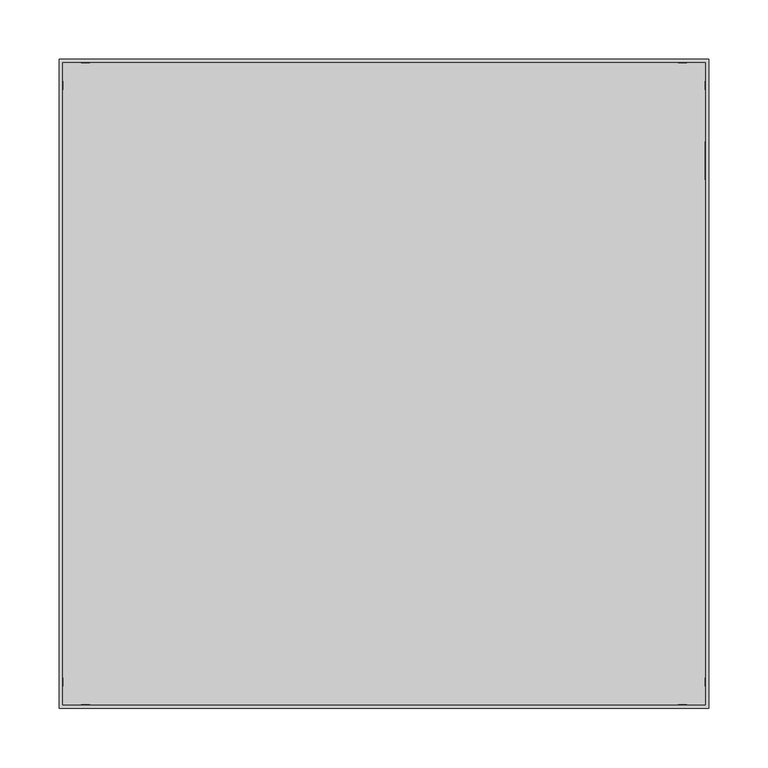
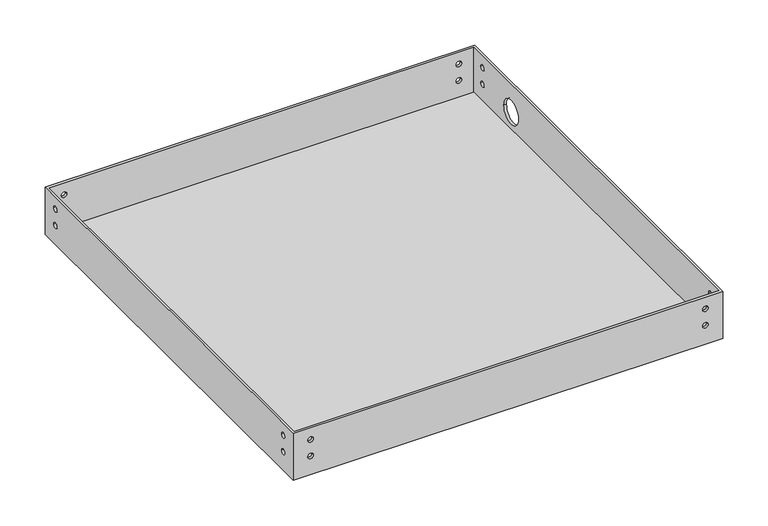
"""IFC4 building model written with IfcOpenShell, lengths in millimetres: proxy geometry, 40 SWHP : #40-SWHP."""

from ifc_helpers import new_model, si_unit, frame, origin, place, context, project, spatial, polyline, circle_curve, source, transform, mapped, element, save
from ifc_brep_helpers import plane_surface, revolved_surface, advanced_brep


def generic_models_013b3a9d(model_context):
    return source(origin(), model_context, "Body", "AdvancedBrep", [
        advanced_brep(
        [(271.065625, -271.065625, 3.175), (271.065625, 271.065625, 3.175), (-271.065625, 271.065625, 3.175), (-271.065625, -271.065625, 3.175), (274.240625, -274.240625, 63.5), (274.240625, 274.240625, 63.5), (-274.240625, 274.240625, 63.5), (-274.240625, -274.240625, 63.5), (271.065625, 271.065625, 63.5), (271.065625, -271.065625, 63.5), (-271.065625, -271.065625, 63.5), (-271.065625, 271.065625, 63.5), (274.240625, -274.240625, 0.0), (-274.240625, -274.240625, 0.0), (-274.240625, 274.240625, 0.0), (274.240625, 274.240625, 0.0), (271.065625, 172.640625, 25.9953125), (271.065625, 204.390625, 25.9953125), (271.065625, -255.584325, 47.625), (271.065625, -248.446925, 47.625), (271.065625, -255.584325, 25.4), (271.065625, -248.446925, 25.4), (271.065625, 248.446925, 47.625), (271.065625, 255.584325, 47.625), (271.065625, 248.446925, 25.4), (271.065625, 255.584325, 25.4), (-255.584325, -271.065625, 47.625), (-248.446925, -271.065625, 47.625), (-255.584325, -271.065625, 25.4), (-248.446925, -271.065625, 25.4), (248.446925, -271.065625, 47.625), (255.584325, -271.065625, 47.625), (248.446925, -271.065625, 25.4), (255.584325, -271.065625, 25.4), (-271.065625, 255.584325, 47.625), (-271.065625, 248.446925, 47.625), (-271.065625, 255.584325, 25.4), (-271.065625, 248.446925, 25.4), (-271.065625, -248.446925, 47.625), (-271.065625, -255.584325, 47.625), (-271.065625, -248.446925, 25.4), (-271.065625, -255.584325, 25.4), (-248.446925, 271.065625, 47.625), (-255.584325, 271.065625, 47.625), (-248.446925, 271.065625, 25.4), (-255.584325, 271.065625, 25.4), (255.584325, 271.065625, 25.4), (248.446925, 271.065625, 25.4), (255.584325, 271.065625, 47.625), (248.446925, 271.065625, 47.625), (274.240625, 204.390625, 25.9953125), (274.240625, 172.640625, 25.9953125), (274.240625, -248.446925, 47.625), (274.240625, -255.584325, 47.625), (274.240625, -248.446925, 25.4), (274.240625, -255.584325, 25.4), (274.240625, 255.584325, 47.625), (274.240625, 248.446925, 47.625), (274.240625, 255.584325, 25.4), (274.240625, 248.446925, 25.4), (-255.584325, 274.240625, 47.625), (-248.446925, 274.240625, 47.625), (-255.584325, 274.240625, 25.4), (-248.446925, 274.240625, 25.4), (248.446925, 274.240625, 25.4), (255.584325, 274.240625, 25.4), (248.446925, 274.240625, 47.625), (255.584325, 274.240625, 47.625), (-274.240625, 248.446925, 47.625), (-274.240625, 255.584325, 47.625), (-274.240625, 248.446925, 25.4), (-274.240625, 255.584325, 25.4), (-274.240625, -255.584325, 47.625), (-274.240625, -248.446925, 47.625), (-274.240625, -255.584325, 25.4), (-274.240625, -248.446925, 25.4), (-248.446925, -274.240625, 47.625), (-255.584325, -274.240625, 47.625), (-248.446925, -274.240625, 25.4), (-255.584325, -274.240625, 25.4), (255.584325, -274.240625, 47.625), (248.446925, -274.240625, 47.625), (255.584325, -274.240625, 25.4), (248.446925, -274.240625, 25.4)],
        [
            (0, 1),
            (1, 2),
            (2, 3),
            (3, 0),
            (4, 5),
            (5, 6),
            (6, 7),
            (7, 4),
            (8, 9),
            (9, 10),
            (10, 11),
            (11, 8),
            (12, 13),
            (13, 14),
            (14, 15),
            (15, 12),
            (8, 1),
            (0, 9),
            (16, 17, circle_curve(frame((271.065625, 188.515625, 25.9953125), z_axis=(1.0, 0.0, 0.0), x_axis=(0.0, 1.0, 0.0)), 15.875)),
            (17, 16, circle_curve(frame((271.065625, 188.515625, 25.9953125), z_axis=(1.0, 0.0, 0.0), x_axis=(0.0, 1.0, 0.0)), 15.875)),
            (18, 19, circle_curve(frame((271.065625, -252.015625, 47.625), z_axis=(1.0, 0.0, 0.0), x_axis=(0.0, -1.0, 0.0)), 3.5687)),
            (19, 18, circle_curve(frame((271.065625, -252.015625, 47.625), z_axis=(1.0, 0.0, 0.0), x_axis=(0.0, -1.0, 0.0)), 3.5687)),
            (20, 21, circle_curve(frame((271.065625, -252.015625, 25.4), z_axis=(1.0, 0.0, 0.0), x_axis=(0.0, -1.0, 0.0)), 3.5687)),
            (21, 20, circle_curve(frame((271.065625, -252.015625, 25.4), z_axis=(1.0, 0.0, 0.0), x_axis=(0.0, -1.0, 0.0)), 3.5687)),
            (22, 23, circle_curve(frame((271.065625, 252.015625, 47.625), z_axis=(1.0, 0.0, 0.0), x_axis=(0.0, -1.0, 0.0)), 3.5687)),
            (23, 22, circle_curve(frame((271.065625, 252.015625, 47.625), z_axis=(1.0, 0.0, 0.0), x_axis=(0.0, -1.0, 0.0)), 3.5687)),
            (24, 25, circle_curve(frame((271.065625, 252.015625, 25.4), z_axis=(1.0, 0.0, 0.0), x_axis=(0.0, -1.0, 0.0)), 3.5687)),
            (25, 24, circle_curve(frame((271.065625, 252.015625, 25.4), z_axis=(1.0, 0.0, 0.0), x_axis=(0.0, -1.0, 0.0)), 3.5687)),
            (3, 10),
            (26, 27, circle_curve(frame((-252.015625, -271.065625, 47.625), z_axis=(0.0, -1.0, 0.0), x_axis=(-1.0, 0.0, 0.0)), 3.5687)),
            (27, 26, circle_curve(frame((-252.015625, -271.065625, 47.625), z_axis=(0.0, -1.0, 0.0), x_axis=(-1.0, 0.0, 0.0)), 3.5687)),
            (28, 29, circle_curve(frame((-252.015625, -271.065625, 25.4), z_axis=(0.0, -1.0, 0.0), x_axis=(-1.0, 0.0, 0.0)), 3.5687)),
            (29, 28, circle_curve(frame((-252.015625, -271.065625, 25.4), z_axis=(0.0, -1.0, 0.0), x_axis=(-1.0, 0.0, 0.0)), 3.5687)),
            (30, 31, circle_curve(frame((252.015625, -271.065625, 47.625), z_axis=(0.0, -1.0, 0.0), x_axis=(-1.0, 0.0, 0.0)), 3.5687)),
            (31, 30, circle_curve(frame((252.015625, -271.065625, 47.625), z_axis=(0.0, -1.0, 0.0), x_axis=(-1.0, 0.0, 0.0)), 3.5687)),
            (32, 33, circle_curve(frame((252.015625, -271.065625, 25.4), z_axis=(0.0, -1.0, 0.0), x_axis=(-1.0, 0.0, 0.0)), 3.5687)),
            (33, 32, circle_curve(frame((252.015625, -271.065625, 25.4), z_axis=(0.0, -1.0, 0.0), x_axis=(-1.0, 0.0, 0.0)), 3.5687)),
            (2, 11),
            (34, 35, circle_curve(frame((-271.065625, 252.015625, 47.625), z_axis=(-1.0, 0.0, 0.0), x_axis=(0.0, -1.0, 0.0)), 3.5687)),
            (35, 34, circle_curve(frame((-271.065625, 252.015625, 47.625), z_axis=(-1.0, 0.0, 0.0), x_axis=(0.0, -1.0, 0.0)), 3.5687)),
            (36, 37, circle_curve(frame((-271.065625, 252.015625, 25.4), z_axis=(-1.0, 0.0, 0.0), x_axis=(0.0, -1.0, 0.0)), 3.5687)),
            (37, 36, circle_curve(frame((-271.065625, 252.015625, 25.4), z_axis=(-1.0, 0.0, 0.0), x_axis=(0.0, -1.0, 0.0)), 3.5687)),
            (38, 39, circle_curve(frame((-271.065625, -252.015625, 47.625), z_axis=(-1.0, 0.0, 0.0), x_axis=(0.0, -1.0, 0.0)), 3.5687)),
            (39, 38, circle_curve(frame((-271.065625, -252.015625, 47.625), z_axis=(-1.0, 0.0, 0.0), x_axis=(0.0, -1.0, 0.0)), 3.5687)),
            (40, 41, circle_curve(frame((-271.065625, -252.015625, 25.4), z_axis=(-1.0, 0.0, 0.0), x_axis=(0.0, -1.0, 0.0)), 3.5687)),
            (41, 40, circle_curve(frame((-271.065625, -252.015625, 25.4), z_axis=(-1.0, 0.0, 0.0), x_axis=(0.0, -1.0, 0.0)), 3.5687)),
            (42, 43, circle_curve(frame((-252.015625, 271.065625, 47.625), z_axis=(0.0, 1.0, 0.0), x_axis=(-1.0, 0.0, 0.0)), 3.5687)),
            (43, 42, circle_curve(frame((-252.015625, 271.065625, 47.625), z_axis=(0.0, 1.0, 0.0), x_axis=(-1.0, 0.0, 0.0)), 3.5687)),
            (44, 45, circle_curve(frame((-252.015625, 271.065625, 25.4), z_axis=(0.0, 1.0, 0.0), x_axis=(-1.0, 0.0, 0.0)), 3.5687)),
            (45, 44, circle_curve(frame((-252.015625, 271.065625, 25.4), z_axis=(0.0, 1.0, 0.0), x_axis=(-1.0, 0.0, 0.0)), 3.5687)),
            (46, 47, circle_curve(frame((252.015625, 271.065625, 25.4), z_axis=(0.0, 1.0, 0.0), x_axis=(-1.0, 0.0, 0.0)), 3.5687)),
            (47, 46, circle_curve(frame((252.015625, 271.065625, 25.4), z_axis=(0.0, 1.0, 0.0), x_axis=(-1.0, 0.0, 0.0)), 3.5687)),
            (48, 49, circle_curve(frame((252.015625, 271.065625, 47.625), z_axis=(0.0, 1.0, 0.0), x_axis=(-1.0, 0.0, 0.0)), 3.5687)),
            (49, 48, circle_curve(frame((252.015625, 271.065625, 47.625), z_axis=(0.0, 1.0, 0.0), x_axis=(-1.0, 0.0, 0.0)), 3.5687)),
            (4, 12),
            (15, 5),
            (50, 51, circle_curve(frame((274.240625, 188.515625, 25.9953125), z_axis=(-1.0, 0.0, 0.0), x_axis=(0.0, 1.0, 0.0)), 15.875)),
            (51, 50, circle_curve(frame((274.240625, 188.515625, 25.9953125), z_axis=(-1.0, 0.0, 0.0), x_axis=(0.0, 1.0, 0.0)), 15.875)),
            (52, 53, circle_curve(frame((274.240625, -252.015625, 47.625), z_axis=(-1.0, 0.0, 0.0), x_axis=(0.0, -1.0, 0.0)), 3.5687)),
            (53, 52, circle_curve(frame((274.240625, -252.015625, 47.625), z_axis=(-1.0, 0.0, 0.0), x_axis=(0.0, -1.0, 0.0)), 3.5687)),
            (54, 55, circle_curve(frame((274.240625, -252.015625, 25.4), z_axis=(-1.0, 0.0, 0.0), x_axis=(0.0, -1.0, 0.0)), 3.5687)),
            (55, 54, circle_curve(frame((274.240625, -252.015625, 25.4), z_axis=(-1.0, 0.0, 0.0), x_axis=(0.0, -1.0, 0.0)), 3.5687)),
            (56, 57, circle_curve(frame((274.240625, 252.015625, 47.625), z_axis=(-1.0, 0.0, 0.0), x_axis=(0.0, -1.0, 0.0)), 3.5687)),
            (57, 56, circle_curve(frame((274.240625, 252.015625, 47.625), z_axis=(-1.0, 0.0, 0.0), x_axis=(0.0, -1.0, 0.0)), 3.5687)),
            (58, 59, circle_curve(frame((274.240625, 252.015625, 25.4), z_axis=(-1.0, 0.0, 0.0), x_axis=(0.0, -1.0, 0.0)), 3.5687)),
            (59, 58, circle_curve(frame((274.240625, 252.015625, 25.4), z_axis=(-1.0, 0.0, 0.0), x_axis=(0.0, -1.0, 0.0)), 3.5687)),
            (14, 6),
            (60, 61, circle_curve(frame((-252.015625, 274.240625, 47.625), z_axis=(0.0, -1.0, 0.0), x_axis=(-1.0, 0.0, 0.0)), 3.5687)),
            (61, 60, circle_curve(frame((-252.015625, 274.240625, 47.625), z_axis=(0.0, -1.0, 0.0), x_axis=(-1.0, 0.0, 0.0)), 3.5687)),
            (62, 63, circle_curve(frame((-252.015625, 274.240625, 25.4), z_axis=(0.0, -1.0, 0.0), x_axis=(-1.0, 0.0, 0.0)), 3.5687)),
            (63, 62, circle_curve(frame((-252.015625, 274.240625, 25.4), z_axis=(0.0, -1.0, 0.0), x_axis=(-1.0, 0.0, 0.0)), 3.5687)),
            (64, 65, circle_curve(frame((252.015625, 274.240625, 25.4), z_axis=(0.0, -1.0, 0.0), x_axis=(-1.0, 0.0, 0.0)), 3.5687)),
            (65, 64, circle_curve(frame((252.015625, 274.240625, 25.4), z_axis=(0.0, -1.0, 0.0), x_axis=(-1.0, 0.0, 0.0)), 3.5687)),
            (66, 67, circle_curve(frame((252.015625, 274.240625, 47.625), z_axis=(0.0, -1.0, 0.0), x_axis=(-1.0, 0.0, 0.0)), 3.5687)),
            (67, 66, circle_curve(frame((252.015625, 274.240625, 47.625), z_axis=(0.0, -1.0, 0.0), x_axis=(-1.0, 0.0, 0.0)), 3.5687)),
            (13, 7),
            (68, 69, circle_curve(frame((-274.240625, 252.015625, 47.625), z_axis=(1.0, 0.0, 0.0), x_axis=(0.0, -1.0, 0.0)), 3.5687)),
            (69, 68, circle_curve(frame((-274.240625, 252.015625, 47.625), z_axis=(1.0, 0.0, 0.0), x_axis=(0.0, -1.0, 0.0)), 3.5687)),
            (70, 71, circle_curve(frame((-274.240625, 252.015625, 25.4), z_axis=(1.0, 0.0, 0.0), x_axis=(0.0, -1.0, 0.0)), 3.5687)),
            (71, 70, circle_curve(frame((-274.240625, 252.015625, 25.4), z_axis=(1.0, 0.0, 0.0), x_axis=(0.0, -1.0, 0.0)), 3.5687)),
            (72, 73, circle_curve(frame((-274.240625, -252.015625, 47.625), z_axis=(1.0, 0.0, 0.0), x_axis=(0.0, -1.0, 0.0)), 3.5687)),
            (73, 72, circle_curve(frame((-274.240625, -252.015625, 47.625), z_axis=(1.0, 0.0, 0.0), x_axis=(0.0, -1.0, 0.0)), 3.5687)),
            (74, 75, circle_curve(frame((-274.240625, -252.015625, 25.4), z_axis=(1.0, 0.0, 0.0), x_axis=(0.0, -1.0, 0.0)), 3.5687)),
            (75, 74, circle_curve(frame((-274.240625, -252.015625, 25.4), z_axis=(1.0, 0.0, 0.0), x_axis=(0.0, -1.0, 0.0)), 3.5687)),
            (76, 77, circle_curve(frame((-252.015625, -274.240625, 47.625), z_axis=(0.0, 1.0, 0.0), x_axis=(-1.0, 0.0, 0.0)), 3.5687)),
            (77, 76, circle_curve(frame((-252.015625, -274.240625, 47.625), z_axis=(0.0, 1.0, 0.0), x_axis=(-1.0, 0.0, 0.0)), 3.5687)),
            (78, 79, circle_curve(frame((-252.015625, -274.240625, 25.4), z_axis=(0.0, 1.0, 0.0), x_axis=(-1.0, 0.0, 0.0)), 3.5687)),
            (79, 78, circle_curve(frame((-252.015625, -274.240625, 25.4), z_axis=(0.0, 1.0, 0.0), x_axis=(-1.0, 0.0, 0.0)), 3.5687)),
            (80, 81, circle_curve(frame((252.015625, -274.240625, 47.625), z_axis=(0.0, 1.0, 0.0), x_axis=(-1.0, 0.0, 0.0)), 3.5687)),
            (81, 80, circle_curve(frame((252.015625, -274.240625, 47.625), z_axis=(0.0, 1.0, 0.0), x_axis=(-1.0, 0.0, 0.0)), 3.5687)),
            (82, 83, circle_curve(frame((252.015625, -274.240625, 25.4), z_axis=(0.0, 1.0, 0.0), x_axis=(-1.0, 0.0, 0.0)), 3.5687)),
            (83, 82, circle_curve(frame((252.015625, -274.240625, 25.4), z_axis=(0.0, 1.0, 0.0), x_axis=(-1.0, 0.0, 0.0)), 3.5687)),
            (16, 51),
            (50, 17),
            (34, 69),
            (68, 35),
            (36, 71),
            (70, 37),
            (38, 73),
            (72, 39),
            (40, 75),
            (74, 41),
            (76, 27),
            (26, 77),
            (78, 29),
            (28, 79),
            (80, 31),
            (30, 81),
            (82, 33),
            (32, 83),
            (52, 19),
            (18, 53),
            (54, 21),
            (20, 55),
            (56, 23),
            (22, 57),
            (58, 25),
            (24, 59),
            (42, 61),
            (60, 43),
            (44, 63),
            (62, 45),
            (46, 65),
            (64, 47),
            (48, 67),
            (66, 49),
        ],
        [
            plane_surface(frame((-271.065625, 271.065625, 3.175), z_axis=(0.0, 0.0, 1.0), x_axis=(-1.0, 0.0, 0.0))),
            plane_surface(frame((271.065625, 271.065625, 63.5), z_axis=(0.0, 0.0, 1.0), x_axis=(0.0, -1.0, 0.0))),
            plane_surface(frame((271.065625, 271.065625, 0.0), z_axis=(0.0, 0.0, -1.0), x_axis=(0.0, 1.0, 0.0))),
            plane_surface(frame((271.065625, 271.065625, 63.5), z_axis=(-1.0, 0.0, 0.0), x_axis=(0.0, 0.0, -1.0))),
            plane_surface(frame((271.065625, -271.065625, 63.5), z_axis=(0.0, 1.0, 0.0), x_axis=(0.0, 0.0, -1.0))),
            plane_surface(frame((-271.065625, -271.065625, 63.5), z_axis=(1.0, 0.0, 0.0), x_axis=(0.0, 0.0, -1.0))),
            plane_surface(frame((-271.065625, 271.065625, 63.5), z_axis=(0.0, -1.0, 0.0), x_axis=(0.0, 0.0, -1.0))),
            plane_surface(frame((274.240625, -274.240625, 63.5), z_axis=(1.0, 0.0, 0.0), x_axis=(0.0, 0.0, -1.0))),
            plane_surface(frame((274.240625, 274.240625, 63.5), z_axis=(0.0, 1.0, 0.0), x_axis=(0.0, 0.0, -1.0))),
            plane_surface(frame((-274.240625, 274.240625, 63.5), z_axis=(-1.0, 0.0, 0.0), x_axis=(0.0, 0.0, -1.0))),
            plane_surface(frame((-274.240625, -274.240625, 63.5), z_axis=(0.0, -1.0, 0.0), x_axis=(0.0, 0.0, -1.0))),
            revolved_surface(polyline([(274.240625, 204.390625, 25.9953125), (271.065625, 204.390625, 25.9953125)]), (271.065625, 188.515625, 25.9953125), (1.0, 0.0, 0.0)),
            revolved_surface(polyline([(-274.240625, 248.446925, 47.625), (-271.065625, 248.446925, 47.625)]), (-271.065625, 252.015625, 47.625), (-1.0, 0.0, 0.0)),
            revolved_surface(polyline([(-274.240625, 248.446925, 25.4), (-271.065625, 248.446925, 25.4)]), (-278.914225, 252.015625, 25.4), (-1.0, 0.0, 0.0)),
            revolved_surface(polyline([(-274.240625, -255.584325, 47.625), (-271.065625, -255.584325, 47.625)]), (-271.065625, -252.015625, 47.625), (-1.0, 0.0, 0.0)),
            revolved_surface(polyline([(-274.240625, -255.584325, 25.4), (-271.065625, -255.584325, 25.4)]), (-278.914225, -252.015625, 25.4), (-1.0, 0.0, 0.0)),
            revolved_surface(polyline([(-255.584325, -271.065625, 47.625), (-255.584325, -274.240625, 47.625)]), (-252.015625, -278.914225, 47.625), (0.0, 1.0, 0.0)),
            revolved_surface(polyline([(-255.584325, -271.065625, 25.4), (-255.584325, -274.240625, 25.4)]), (-252.015625, -278.914225, 25.4), (0.0, 1.0, 0.0)),
            revolved_surface(polyline([(248.446925, -271.065625, 47.625), (248.446925, -274.240625, 47.625)]), (252.015625, -278.914225, 47.625), (0.0, 1.0, 0.0)),
            revolved_surface(polyline([(248.446925, -271.065625, 25.4), (248.446925, -274.240625, 25.4)]), (252.015625, -278.914225, 25.4), (0.0, 1.0, 0.0)),
            revolved_surface(polyline([(271.065625, -255.584325, 47.625), (274.240625, -255.584325, 47.625)]), (278.914225, -252.015625, 47.625), (-1.0, 0.0, 0.0)),
            revolved_surface(polyline([(271.065625, -255.584325, 25.4), (274.240625, -255.584325, 25.4)]), (278.914225, -252.015625, 25.4), (-1.0, 0.0, 0.0)),
            revolved_surface(polyline([(271.065625, 248.446925, 47.625), (274.240625, 248.446925, 47.625)]), (278.914225, 252.015625, 47.625), (-1.0, 0.0, 0.0)),
            revolved_surface(polyline([(271.065625, 248.446925, 25.4), (274.240625, 248.446925, 25.4)]), (278.914225, 252.015625, 25.4), (-1.0, 0.0, 0.0)),
            revolved_surface(polyline([(-255.584325, 274.240625, 47.625), (-255.584325, 271.065625, 47.625)]), (-252.015625, 271.065625, 47.625), (0.0, 1.0, 0.0)),
            revolved_surface(polyline([(-255.584325, 274.240625, 25.4), (-255.584325, 271.065625, 25.4)]), (-252.015625, 278.914225, 25.4), (0.0, 1.0, 0.0)),
            revolved_surface(polyline([(248.446925, 274.240625, 25.4), (248.446925, 271.065625, 25.4)]), (252.015625, 271.065625, 25.4), (0.0, 1.0, 0.0)),
            revolved_surface(polyline([(248.446925, 274.240625, 47.625), (248.446925, 271.065625, 47.625)]), (252.015625, 278.914225, 47.625), (0.0, 1.0, 0.0)),
        ],
        [
            (0, [[1, 2, 3, 4]]),
            (1, [[5, 6, 7, 8], [9, 10, 11, 12]]),
            (2, [[13, 14, 15, 16]]),
            (3, [[-9, 17, -1, 18], [19, 20], [21, 22], [23, 24], [25, 26], [27, 28]]),
            (4, [[-10, -18, -4, 29], [30, 31], [32, 33], [34, 35], [36, 37]]),
            (5, [[-11, -29, -3, 38], [39, 40], [41, 42], [43, 44], [45, 46]]),
            (6, [[-12, -38, -2, -17], [47, 48], [49, 50], [51, 52], [53, 54]]),
            (7, [[-5, 55, -16, 56], [57, 58], [59, 60], [61, 62], [63, 64], [65, 66]]),
            (8, [[-6, -56, -15, 67], [68, 69], [70, 71], [72, 73], [74, 75]]),
            (9, [[-7, -67, -14, 76], [77, 78], [79, 80], [81, 82], [83, 84]]),
            (10, [[-8, -76, -13, -55], [85, 86], [87, 88], [89, 90], [91, 92]]),
            (11, [[93, -57, 94, -19]]),
            (11, [[-93, -20, -94, -58]]),
            (12, [[95, -77, 96, -39]]),
            (12, [[-95, -40, -96, -78]]),
            (13, [[97, -79, 98, -41]]),
            (13, [[-97, -42, -98, -80]]),
            (14, [[99, -81, 100, -43]]),
            (14, [[-99, -44, -100, -82]]),
            (15, [[101, -83, 102, -45]]),
            (15, [[-101, -46, -102, -84]]),
            (16, [[103, -30, 104, -85]]),
            (16, [[-103, -86, -104, -31]]),
            (17, [[105, -32, 106, -87]]),
            (17, [[-105, -88, -106, -33]]),
            (18, [[107, -34, 108, -89]]),
            (18, [[-107, -90, -108, -35]]),
            (19, [[109, -36, 110, -91]]),
            (19, [[-109, -92, -110, -37]]),
            (20, [[111, -21, 112, -59]]),
            (20, [[-111, -60, -112, -22]]),
            (21, [[113, -23, 114, -61]]),
            (21, [[-113, -62, -114, -24]]),
            (22, [[115, -25, 116, -63]]),
            (22, [[-115, -64, -116, -26]]),
            (23, [[117, -27, 118, -65]]),
            (23, [[-117, -66, -118, -28]]),
            (24, [[119, -68, 120, -47]]),
            (24, [[-119, -48, -120, -69]]),
            (25, [[121, -70, 122, -49]]),
            (25, [[-121, -50, -122, -71]]),
            (26, [[123, -72, 124, -51]]),
            (26, [[-123, -52, -124, -73]]),
            (27, [[125, -74, 126, -53]]),
            (27, [[-125, -54, -126, -75]]),
        ],
    ),
    ])


if __name__ == "__main__":
    model = new_model("IFC4")
    model_context = context("Model", 3, world=origin())
    ifc_project = project(units=[si_unit("LENGTHUNIT", "METRE", prefix="MILLI")], contexts=[model_context])
    site = spatial("IfcSite", under=ifc_project)
    building = spatial("IfcBuilding", under=site)
    placement = place(None, origin())
    generic_models_shape = generic_models_013b3a9d(model_context)
    element("IfcBuildingElementProxy", 1, Name="40 SWHP : #40-SWHP", ObjectType="40 SWHP : #40-SWHP", at=placement, inside=building, context=model_context, shape_type="MappedRepresentation", body=[
        mapped(generic_models_shape, transform((0.0, 0.0, 0.0), x_axis=(1.0, 0.0, 0.0), y_axis=(0.0, 1.0, 0.0), z_axis=(0.0, 0.0, 1.0))),
    ])
    save(model, "model.ifc")
